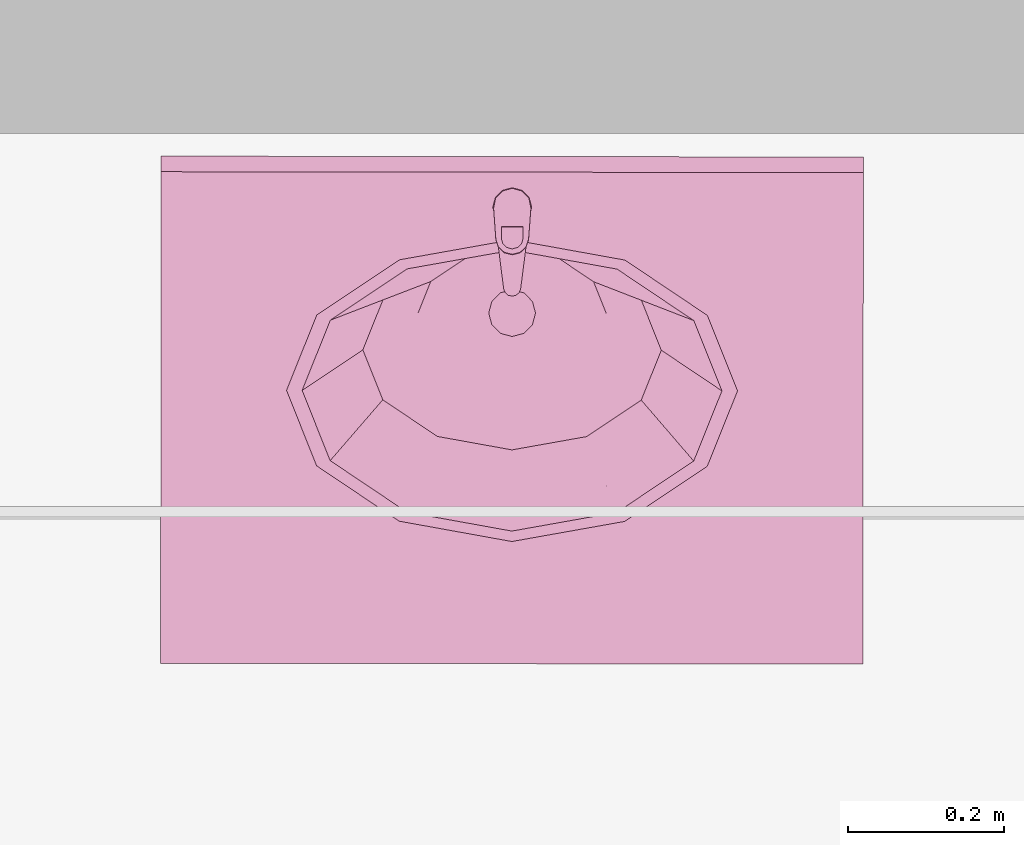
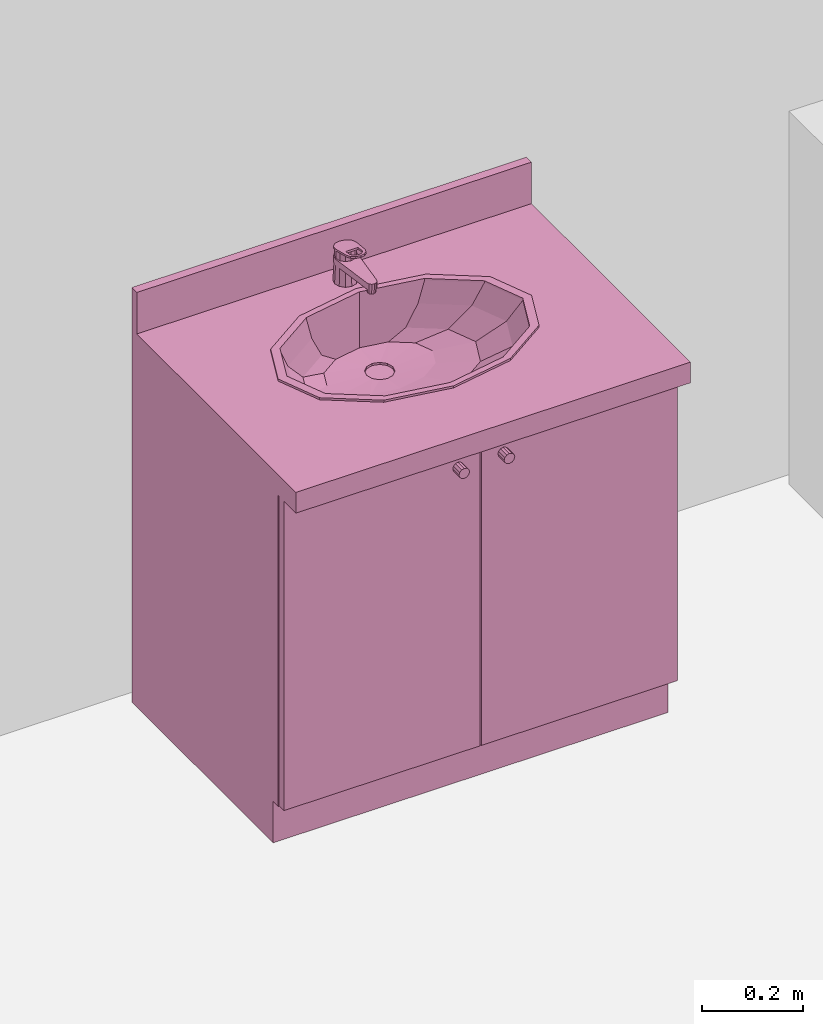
# One storey, part 95 of 127: 1 furnishing.
"""IFC2X3 building model written with IfcOpenShell, lengths in millimetres."""

from ifc_helpers import new_model, entity, si_unit, converted_unit, derived_unit, money_unit, direction, frame, origin_with_axes, place, context, subcontext, project, spatial, open_shell, faceted_brep, surface_model, source, transform, mapped, type_object, element, save


model = new_model("IFC2X3")

# Units and contexts
model_context = context("Model", 3, precision=1e-05, world=origin_with_axes(), true_north=direction((0.0, 1.0)))
body_context = subcontext(model_context, "Body", "Model", "MODEL_VIEW")
ifc_project = project(units=[si_unit("LENGTHUNIT", "METRE", prefix="MILLI"), si_unit("AREAUNIT", "SQUARE_METRE"), si_unit("VOLUMEUNIT", "CUBIC_METRE"), converted_unit("PLANEANGLEUNIT", "DEGREE", entity("IfcPlaneAngleMeasure", 0.0174532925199), si_unit("PLANEANGLEUNIT", "RADIAN"), dimensions=[0, 0, 0, 0, 0, 0, 0]), si_unit("SOLIDANGLEUNIT", "STERADIAN"), money_unit("EUR"), converted_unit("TIMEUNIT", "Year", entity("IfcTimeMeasure", 31556926.0), si_unit("TIMEUNIT", "SECOND"), dimensions=[0, 0, 1, 0, 0, 0, 0]), si_unit("MASSUNIT", "GRAM", prefix="KILO"), si_unit("THERMODYNAMICTEMPERATUREUNIT", "DEGREE_CELSIUS"), si_unit("LUMINOUSINTENSITYUNIT", "LUMEN"), si_unit("ENERGYUNIT", "JOULE", prefix="MEGA"), derived_unit("THERMALCONDUCTANCEUNIT", [(si_unit("POWERUNIT", "WATT"), 1), (si_unit("LENGTHUNIT", "METRE"), -1), (si_unit("THERMODYNAMICTEMPERATUREUNIT", "KELVIN"), -1)]), derived_unit("SPECIFICHEATCAPACITYUNIT", [(si_unit("ENERGYUNIT", "JOULE"), 1), (si_unit("MASSUNIT", "GRAM", prefix="KILO"), -1), (si_unit("THERMODYNAMICTEMPERATUREUNIT", "KELVIN"), -1)]), derived_unit("MASSDENSITYUNIT", [(si_unit("MASSUNIT", "GRAM", prefix="KILO"), 1), (si_unit("VOLUMEUNIT", "CUBIC_METRE"), -1)])], contexts=[model_context])

# Site, building, storey
site_placement = place(None, origin_with_axes())
site = spatial("IfcSite", under=ifc_project, at=site_placement, Name="Site", CompositionType="ELEMENT")
building_placement = place(site_placement, origin_with_axes())
building = spatial("IfcBuilding", under=site, at=building_placement, Name="Building", CompositionType="ELEMENT")
storey_placement = place(building_placement, origin_with_axes())
storey = spatial("IfcBuildingStorey", under=building, at=storey_placement, Name="1 KORRUS", CompositionType="ELEMENT", Elevation=0.0)

# Furnishing
furnishing_element_type = type_object("IfcFurnishingElementType", Name="Model Element 23")
shared_shape = source(origin_with_axes(), body_context, "Body", "SurfaceModel", [
    faceted_brep([(0.0, 90.0, 0.0), (900.0, 90.0, 0.0), (900.0, 90.0, 100.0), (0.0, 90.0, 100.0), (0.0, 650.0, 0.0), (900.0, 650.0, 0.0), (900.0, 650.0, 100.0), (0.0, 650.0, 100.0)], [[[0, 1, 2, 3]], [[0, 4, 5, 1]], [[1, 5, 6, 2]], [[3, 2, 6, 7]], [[4, 0, 3, 7]], [[5, 4, 7, 6]]]),
    faceted_brep([(0.0, 70.0, 100.0), (20.0, 70.0, 100.0), (20.0, 70.0, 120.0), (0.0, 70.0, 120.0), (0.0, 650.0, 100.0), (20.0, 650.0, 100.0), (880.0, 650.0, 100.0), (900.0, 650.0, 100.0), (900.0, 70.0, 100.0), (880.0, 70.0, 100.0), (880.0, 70.0, 120.0), (900.0, 70.0, 120.0), (900.0, 650.0, 120.0), (880.0, 650.0, 120.0), (20.0, 650.0, 120.0), (0.0, 650.0, 120.0)], [[[0, 1, 2, 3]], [[0, 4, 5, 6, 7, 8, 9, 1]], [[1, 9, 10, 2]], [[3, 2, 10, 11, 12, 13, 14, 15]], [[4, 0, 3, 15]], [[5, 4, 15, 14]], [[6, 5, 14, 13]], [[7, 6, 13, 12]], [[8, 7, 12, 11]], [[9, 8, 11, 10]]]),
    faceted_brep([(0.0, 70.0, 120.0), (20.0, 70.0, 120.0), (20.0, 70.0, 850.0), (0.0, 70.0, 850.0), (0.0, 650.0, 120.0), (900.0, 650.0, 120.0), (900.0, 70.0, 120.0), (880.0, 70.0, 120.0), (880.0, 630.0, 120.0), (20.0, 630.0, 120.0), (20.0, 630.0, 850.0), (880.0, 630.0, 850.0), (880.0, 70.0, 850.0), (900.0, 70.0, 850.0), (900.0, 650.0, 850.0), (0.0, 650.0, 850.0)], [[[0, 1, 2, 3]], [[0, 4, 5, 6, 7, 8, 9, 1]], [[1, 9, 10, 2]], [[3, 2, 10, 11, 12, 13, 14, 15]], [[4, 0, 3, 15]], [[5, 4, 15, 14]], [[6, 5, 14, 13]], [[7, 6, 13, 12]], [[8, 7, 12, 11]], [[9, 8, 11, 10]]]),
    faceted_brep([(880.0, 70.0, 323.333333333), (880.0, 630.0, 323.333333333), (880.0, 630.0, 343.333333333), (880.0, 70.0, 343.333333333), (20.0, 70.0, 323.333333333), (20.0, 630.0, 323.333333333), (20.0, 630.0, 343.333333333), (20.0, 70.0, 343.333333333)], [[[0, 1, 2, 3]], [[0, 4, 5, 1]], [[1, 5, 6, 2]], [[3, 2, 6, 7]], [[4, 0, 3, 7]], [[5, 4, 7, 6]]]),
    faceted_brep([(880.0, 70.0, 566.666666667), (880.0, 630.0, 566.666666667), (880.0, 630.0, 586.666666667), (880.0, 70.0, 586.666666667), (20.0, 70.0, 566.666666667), (20.0, 630.0, 566.666666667), (20.0, 630.0, 586.666666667), (20.0, 70.0, 586.666666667)], [[[0, 1, 2, 3]], [[0, 4, 5, 1]], [[1, 5, 6, 2]], [[3, 2, 6, 7]], [[4, 0, 3, 7]], [[5, 4, 7, 6]]]),
    faceted_brep([(0.0, 650.0, 850.0), (900.0, 650.0, 850.0), (900.0, 0.0, 850.0), (0.0, 0.0, 850.0), (585.0, 194.115427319, 850.0), (683.826859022, 260.0, 850.0), (720.0, 350.0, 850.0), (683.826859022, 440.0, 850.0), (585.0, 505.884572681, 850.0), (450.0, 530.0, 850.0), (315.0, 505.884572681, 850.0), (216.173140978, 440.0, 850.0), (180.0, 350.0, 850.0), (216.173140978, 260.0, 850.0), (315.0, 194.115427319, 850.0), (450.0, 170.0, 850.0), (0.0, 650.0, 900.0), (900.0, 650.0, 900.0), (900.0, 0.0, 900.0), (0.0, 0.0, 900.0), (585.0, 194.115427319, 900.0), (683.826859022, 260.0, 900.0), (720.0, 350.0, 900.0), (683.826859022, 440.0, 900.0), (585.0, 505.884572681, 900.0), (450.0, 530.0, 900.0), (315.0, 505.884572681, 900.0), (216.173140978, 440.0, 900.0), (180.0, 350.0, 900.0), (216.173140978, 260.0, 900.0), (315.0, 194.115427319, 900.0), (450.0, 170.0, 900.0)], [[[0, 1, 2, 3], [4, 5, 6, 7, 8, 9, 10, 11, 12, 13, 14, 15]], [[0, 16, 17, 1]], [[1, 17, 18, 2]], [[2, 18, 19, 3]], [[3, 19, 16, 0]], [[20, 21, 5, 4]], [[21, 22, 6, 5]], [[22, 23, 7, 6]], [[23, 24, 8, 7]], [[24, 25, 9, 8]], [[25, 26, 10, 9]], [[26, 27, 11, 10]], [[27, 28, 12, 11]], [[28, 29, 13, 12]], [[29, 30, 14, 13]], [[30, 31, 15, 14]], [[31, 20, 4, 15]], [[18, 17, 16, 19], [24, 23, 22, 21, 20, 31, 30, 29, 28, 27, 26, 25]]]),
    faceted_brep([(0.0, 630.0, 900.0), (900.0, 630.0, 900.0), (900.0, 630.0, 1000.0), (0.0, 630.0, 1000.0), (0.0, 650.0, 900.0), (900.0, 650.0, 900.0), (900.0, 650.0, 1000.0), (0.0, 650.0, 1000.0)], [[[0, 1, 2, 3]], [[0, 4, 5, 1]], [[1, 5, 6, 2]], [[3, 2, 6, 7]], [[4, 0, 3, 7]], [[5, 4, 7, 6]]]),
    faceted_brep([(739.0, 350.0, 905.0), (739.0, 350.0, 900.0), (700.281341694, 446.691449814, 900.0), (700.281341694, 446.691449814, 905.0), (700.281341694, 253.308550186, 905.0), (700.281341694, 253.308550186, 900.0), (594.5, 182.525496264, 900.0), (450.0, 156.617100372, 900.0), (305.5, 182.525496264, 900.0), (199.718658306, 253.308550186, 900.0), (161.0, 350.0, 900.0), (199.718658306, 446.691449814, 900.0), (305.5, 517.474503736, 900.0), (450.0, 543.382899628, 900.0), (594.5, 517.474503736, 900.0), (719.0, 350.0, 900.0), (682.960833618, 440.0, 900.0), (584.5, 505.884572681, 900.0), (450.0, 530.0, 900.0), (315.5, 505.884572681, 900.0), (217.039166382, 440.0, 900.0), (181.0, 350.0, 900.0), (217.039166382, 260.0, 900.0), (315.5, 194.115427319, 900.0), (450.0, 170.0, 900.0), (584.5, 194.115427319, 900.0), (682.960833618, 260.0, 900.0), (594.5, 517.474503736, 905.0), (450.0, 543.382899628, 905.0), (305.5, 517.474503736, 905.0), (199.718658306, 446.691449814, 905.0), (161.0, 350.0, 905.0), (199.718658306, 253.308550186, 905.0), (305.5, 182.525496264, 905.0), (450.0, 156.617100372, 905.0), (594.5, 182.525496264, 905.0), (719.0, 350.0, 905.0), (682.960833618, 260.0, 905.0), (584.5, 194.115427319, 905.0), (450.0, 170.0, 905.0), (315.5, 194.115427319, 905.0), (217.039166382, 260.0, 905.0), (181.0, 350.0, 905.0), (217.039166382, 440.0, 905.0), (315.5, 505.884572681, 905.0), (450.0, 530.0, 905.0), (584.5, 505.884572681, 905.0), (682.960833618, 440.0, 905.0)], [[[0, 1, 2, 3]], [[4, 5, 1, 0]], [[1, 5, 6, 7, 8, 9, 10, 11, 12, 13, 14, 2], [15, 16, 17, 18, 19, 20, 21, 22, 23, 24, 25, 26]], [[3, 2, 14, 27]], [[0, 3, 27, 28, 29, 30, 31, 32, 33, 34, 35, 4], [36, 37, 38, 39, 40, 41, 42, 43, 44, 45, 46, 47]], [[35, 6, 5, 4]], [[34, 7, 6, 35]], [[33, 8, 7, 34]], [[32, 9, 8, 33]], [[31, 10, 9, 32]], [[30, 11, 10, 31]], [[29, 12, 11, 30]], [[28, 13, 12, 29]], [[27, 14, 13, 28]], [[47, 16, 15, 36]], [[46, 17, 16, 47]], [[45, 18, 17, 46]], [[44, 19, 18, 45]], [[43, 20, 19, 44]], [[42, 21, 20, 43]], [[41, 22, 21, 42]], [[40, 23, 22, 41]], [[39, 24, 23, 40]], [[38, 25, 24, 39]], [[37, 26, 25, 38]], [[36, 15, 26, 37]]]),
    surface_model("IfcShellBasedSurfaceModel", [(450.0, 530.0, 900.0), (450.0, 530.0, 848.0), (571.05, 508.296115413, 848.0), (584.5, 505.884572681, 900.0), (315.5, 505.884572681, 900.0), (328.95, 508.296115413, 848.0), (659.664750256, 449.0, 848.0), (682.960833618, 440.0, 900.0), (217.039166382, 440.0, 900.0), (240.335249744, 449.0, 848.0), (692.1, 368.0, 848.0), (719.0, 350.0, 900.0), (181.0, 350.0, 900.0), (207.9, 368.0, 848.0), (659.664750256, 287.0, 848.0), (682.960833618, 260.0, 900.0), (217.039166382, 260.0, 900.0), (240.335249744, 287.0, 848.0), (571.05, 227.703884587, 848.0), (584.5, 194.115427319, 900.0), (315.5, 194.115427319, 900.0), (328.95, 227.703884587, 848.0), (450.0, 206.0, 848.0), (450.0, 170.0, 900.0)], [open_shell([[[0, 1, 2, 3]], [[4, 5, 1, 0]], [[3, 2, 6, 7]], [[8, 9, 5, 4]], [[7, 6, 10, 11]], [[12, 13, 9, 8]], [[11, 10, 14, 15]], [[16, 17, 13, 12]], [[15, 14, 18, 19]], [[20, 21, 17, 16]], [[19, 18, 22, 23]], [[23, 22, 21, 20]]])]),
    surface_model("IfcShellBasedSurfaceModel", [(450.0, 530.0, 848.0), (450.0, 530.0, 796.0), (545.6295, 512.853931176, 796.0), (571.05, 508.296115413, 848.0), (328.95, 508.296115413, 848.0), (354.3705, 512.853931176, 796.0), (615.635152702, 466.01, 796.0), (659.664750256, 449.0, 848.0), (240.335249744, 449.0, 848.0), (284.364847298, 466.01, 796.0), (641.259, 402.02, 796.0), (692.1, 368.0, 848.0), (207.9, 368.0, 848.0), (258.741, 402.02, 796.0), (615.635152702, 338.03, 796.0), (659.664750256, 287.0, 848.0), (240.335249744, 287.0, 848.0), (284.364847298, 338.03, 796.0), (545.6295, 291.186068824, 796.0), (571.05, 227.703884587, 848.0), (328.95, 227.703884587, 848.0), (354.3705, 291.186068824, 796.0), (450.0, 274.04, 796.0), (450.0, 206.0, 848.0)], [open_shell([[[0, 1, 2, 3]], [[4, 5, 1, 0]], [[3, 2, 6, 7]], [[8, 9, 5, 4]], [[7, 6, 10, 11]], [[12, 13, 9, 8]], [[11, 10, 14, 15]], [[16, 17, 13, 12]], [[15, 14, 18, 19]], [[20, 21, 17, 16]], [[19, 18, 22, 23]], [[23, 22, 21, 20]]])]),
    surface_model("IfcShellBasedSurfaceModel", [(450.0, 530.0, 796.0), (450.0, 530.0, 770.0), (510.246585, 519.197976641, 770.0), (545.6295, 512.853931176, 796.0), (354.3705, 512.853931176, 796.0), (389.753415, 519.197976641, 770.0), (554.350146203, 489.6863, 770.0), (615.635152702, 466.01, 796.0), (284.364847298, 466.01, 796.0), (345.649853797, 489.6863, 770.0), (570.49317, 449.3726, 770.0), (641.259, 402.02, 796.0), (258.741, 402.02, 796.0), (329.50683, 449.3726, 770.0), (554.350146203, 409.0589, 770.0), (615.635152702, 338.03, 796.0), (284.364847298, 338.03, 796.0), (345.649853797, 409.0589, 770.0), (510.246585, 379.547223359, 770.0), (545.6295, 291.186068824, 796.0), (354.3705, 291.186068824, 796.0), (389.753415, 379.547223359, 770.0), (450.0, 368.7452, 770.0), (450.0, 274.04, 796.0)], [open_shell([[[0, 1, 2, 3]], [[4, 5, 1, 0]], [[3, 2, 6, 7]], [[8, 9, 5, 4]], [[7, 6, 10, 11]], [[12, 13, 9, 8]], [[11, 10, 14, 15]], [[16, 17, 13, 12]], [[15, 14, 18, 19]], [[20, 21, 17, 16]], [[19, 18, 22, 23]], [[23, 22, 21, 20]]])]),
    surface_model("IfcShellBasedSurfaceModel", [(450.0, 530.0, 770.0), (465.0, 475.353362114, 763.0), (510.246585, 519.197976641, 770.0), (450.0, 479.3726, 763.0), (475.980762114, 464.3726, 763.0), (389.753415, 519.197976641, 770.0), (554.350146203, 489.6863, 770.0), (435.0, 475.353362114, 763.0), (480.0, 449.3726, 763.0), (345.649853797, 489.6863, 770.0), (570.49317, 449.3726, 770.0), (424.019237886, 464.3726, 763.0), (475.980762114, 434.3726, 763.0), (329.50683, 449.3726, 770.0), (554.350146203, 409.0589, 770.0), (420.0, 449.3726, 763.0), (465.0, 423.391837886, 763.0), (345.649853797, 409.0589, 770.0), (510.246585, 379.547223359, 770.0), (424.019237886, 434.3726, 763.0), (450.0, 419.3726, 763.0), (389.753415, 379.547223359, 770.0), (450.0, 368.7452, 770.0), (435.0, 423.391837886, 763.0)], [open_shell([[[0, 1, 2]], [[0, 3, 1]], [[2, 1, 4]], [[5, 3, 0]], [[2, 4, 6]], [[5, 7, 3]], [[6, 4, 8]], [[9, 7, 5]], [[6, 8, 10]], [[9, 11, 7]], [[10, 8, 12]], [[13, 11, 9]], [[10, 12, 14]], [[13, 15, 11]], [[14, 12, 16]], [[17, 15, 13]], [[14, 16, 18]], [[17, 19, 15]], [[18, 16, 20]], [[21, 19, 17]], [[18, 20, 22]], [[21, 23, 19]], [[22, 20, 23]], [[22, 23, 21]]])]),
    surface_model("IfcShellBasedSurfaceModel", [(480.0, 449.3726, 763.0), (480.0, 449.3726, 758.0), (475.980762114, 464.3726, 758.0), (475.980762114, 464.3726, 763.0), (475.980762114, 434.3726, 763.0), (475.980762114, 434.3726, 758.0), (465.0, 423.391837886, 758.0), (450.0, 419.3726, 758.0), (435.0, 423.391837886, 758.0), (424.019237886, 434.3726, 758.0), (420.0, 449.3726, 758.0), (424.019237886, 464.3726, 758.0), (435.0, 475.353362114, 758.0), (450.0, 479.3726, 758.0), (465.0, 475.353362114, 758.0), (465.0, 475.353362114, 763.0), (465.0, 423.391837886, 763.0), (450.0, 419.3726, 763.0), (435.0, 423.391837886, 763.0), (424.019237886, 434.3726, 763.0), (420.0, 449.3726, 763.0), (424.019237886, 464.3726, 763.0), (435.0, 475.353362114, 763.0), (450.0, 479.3726, 763.0)], [open_shell([[[0, 1, 2, 3]], [[4, 5, 1, 0]], [[1, 5, 6, 7, 8, 9, 10, 11, 12, 13, 14, 2]], [[3, 2, 14, 15]], [[16, 6, 5, 4]], [[17, 7, 6, 16]], [[18, 8, 7, 17]], [[19, 9, 8, 18]], [[20, 10, 9, 19]], [[21, 11, 10, 20]], [[22, 12, 11, 21]], [[23, 13, 12, 22]], [[15, 14, 13, 23]]])]),
    faceted_brep([(462.5, 606.650635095, 900.0), (450.0, 610.0, 900.0), (450.0, 606.201923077, 975.961538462), (460.587322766, 603.337780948, 976.507089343), (471.650635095, 597.5, 900.0), (475.0, 585.0, 900.0), (471.650635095, 572.5, 900.0), (462.5, 563.349364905, 900.0), (450.0, 560.0, 900.0), (437.5, 563.349364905, 900.0), (428.349364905, 572.5, 900.0), (425.0, 585.0, 900.0), (428.349364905, 597.5, 900.0), (437.5, 606.650635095, 900.0), (439.412677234, 603.337780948, 976.507089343), (431.726449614, 595.550239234, 977.990430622), (429.0, 585.0, 980.0), (431.899658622, 574.549763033, 981.990521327), (439.585894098, 566.962239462, 983.435763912), (450.0, 564.198113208, 983.962264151), (460.414105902, 566.962239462, 983.435763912), (468.100341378, 574.549763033, 981.990521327), (471.0, 585.0, 980.0), (468.273550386, 595.550239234, 977.990430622)], [[[0, 1, 2, 3]], [[0, 4, 5, 6, 7, 8, 9, 10, 11, 12, 13, 1]], [[1, 13, 14, 2]], [[3, 2, 14, 15, 16, 17, 18, 19, 20, 21, 22, 23]], [[4, 0, 3, 23]], [[5, 4, 23, 22]], [[6, 5, 22, 21]], [[7, 6, 21, 20]], [[8, 7, 20, 19]], [[9, 8, 19, 18]], [[10, 9, 18, 17]], [[11, 10, 17, 16]], [[12, 11, 16, 15]], [[13, 12, 15, 14]]]),
    faceted_brep([(459.0, 482.0, 935.0), (457.794228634, 486.5, 935.0), (457.794228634, 486.5, 945.0), (459.0, 482.0, 945.0), (457.794228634, 477.5, 935.0), (454.5, 474.205771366, 935.0), (450.0, 473.0, 935.0), (445.5, 474.205771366, 935.0), (442.205771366, 477.5, 935.0), (441.0, 482.0, 935.0), (442.205771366, 486.5, 935.0), (445.5, 489.794228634, 935.0), (450.0, 491.0, 935.0), (454.5, 489.794228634, 935.0), (454.5, 489.794228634, 945.0), (450.0, 491.0, 945.0), (445.5, 489.794228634, 945.0), (442.205771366, 486.5, 945.0), (441.0, 482.0, 945.0), (442.205771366, 477.5, 945.0), (445.5, 474.205771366, 945.0), (450.0, 473.0, 945.0), (454.5, 474.205771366, 945.0), (457.794228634, 477.5, 945.0)], [[[0, 1, 2, 3]], [[0, 4, 5, 6, 7, 8, 9, 10, 11, 12, 13, 1]], [[1, 13, 14, 2]], [[3, 2, 14, 15, 16, 17, 18, 19, 20, 21, 22, 23]], [[4, 0, 3, 23]], [[5, 4, 23, 22]], [[6, 5, 22, 21]], [[7, 6, 21, 20]], [[8, 7, 20, 19]], [[9, 8, 19, 18]], [[10, 9, 18, 17]], [[11, 10, 17, 16]], [[12, 11, 16, 15]], [[13, 12, 15, 14]]]),
    faceted_brep([(437.128282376, 605.256303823, 960.0), (428.272194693, 595.19320537, 960.0), (426.1946, 581.9501, 960.0), (439.088009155, 480.611628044, 960.0), (440.971124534, 475.716805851, 960.0), (444.906675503, 472.250273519, 960.0), (450.000036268, 471.00003996, 960.0), (455.093388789, 472.250307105, 960.0), (459.028916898, 475.716865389, 960.0), (460.912, 480.6117, 960.0), (473.805399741, 581.950097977, 960.0), (471.727806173, 595.193203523, 960.0), (462.871719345, 605.256302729, 960.0), (450.00000102, 608.999978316, 960.0), (461.0, 604.052558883, 960.0), (469.052558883, 596.0, 960.0), (472.0, 585.0, 960.0), (469.052558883, 574.0, 960.0), (461.0, 565.947441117, 960.0), (450.0, 563.0, 960.0), (439.0, 565.947441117, 960.0), (430.947441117, 574.0, 960.0), (428.0, 585.0, 960.0), (430.947441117, 596.0, 960.0), (439.0, 604.052558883, 960.0), (450.0, 607.0, 960.0), (428.272194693, 595.19320537, 945.0), (437.128282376, 605.256303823, 945.0), (426.1946, 581.9501, 945.0), (439.088009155, 480.611628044, 945.0), (440.971124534, 475.716805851, 945.0), (444.906675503, 472.250273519, 945.0), (450.000036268, 471.00003996, 945.0), (455.093388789, 472.250307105, 945.0), (459.028916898, 475.716865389, 945.0), (460.912, 480.6117, 945.0), (473.805399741, 581.950097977, 945.0), (471.727806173, 595.193203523, 945.0), (462.871719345, 605.256302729, 945.0), (450.00000102, 608.999978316, 945.0), (461.375, 604.702077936, 945.0), (469.702077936, 596.375, 945.0), (472.75, 585.0, 945.0), (469.702077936, 573.625, 945.0), (461.375, 565.297922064, 945.0), (450.0, 562.25, 945.0), (438.625, 565.297922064, 945.0), (430.297922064, 573.625, 945.0), (427.25, 585.0, 945.0), (430.297922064, 596.375, 945.0), (438.625, 604.702077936, 945.0), (450.0, 607.75, 945.0)], [[[0, 1, 2, 3, 4, 5, 6, 7, 8, 9, 10, 11, 12, 13], [14, 15, 16, 17, 18, 19, 20, 21, 22, 23, 24, 25]], [[26, 1, 0, 27]], [[28, 2, 1, 26]], [[29, 3, 2, 28]], [[30, 4, 3, 29]], [[31, 5, 4, 30]], [[32, 6, 5, 31]], [[33, 7, 6, 32]], [[34, 8, 7, 33]], [[35, 9, 8, 34]], [[36, 10, 9, 35]], [[37, 11, 10, 36]], [[38, 12, 11, 37]], [[39, 13, 12, 38]], [[27, 0, 13, 39]], [[40, 41, 15, 14]], [[41, 42, 16, 15]], [[42, 43, 17, 16]], [[43, 44, 18, 17]], [[44, 45, 19, 18]], [[20, 19, 45, 46]], [[21, 20, 46, 47]], [[22, 21, 47, 48]], [[23, 22, 48, 49]], [[24, 23, 49, 50]], [[50, 51, 25, 24]], [[51, 40, 14, 25]], [[32, 31, 30, 29, 28, 26, 27, 39, 38, 37, 36, 35, 34, 33], [44, 43, 42, 41, 40, 51, 50, 49, 48, 47, 46, 45]]]),
    faceted_brep([(473.893, 583.30743065, 980.322394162), (471.296421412, 595.774718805, 977.947672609), (471.296421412, 596.523167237, 981.877026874), (473.893, 584.055879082, 984.251748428), (470.945936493, 543.163297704, 987.968895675), (467.663139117, 533.485633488, 989.812260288), (460.061435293, 526.536253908, 991.135951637), (449.999557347, 524.01438808, 991.616307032), (439.937787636, 526.536670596, 991.135872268), (432.336382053, 533.486364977, 989.812120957), (429.054, 543.164165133, 987.968730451), (426.106979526, 583.307709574, 980.322341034), (428.703708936, 595.774967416, 977.947625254), (437.52831848, 605.091197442, 976.173105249), (450.000142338, 608.531964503, 975.517721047), (462.47192457, 605.091051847, 976.173132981), (464.0, 559.459197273, 984.864914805), (436.0, 559.459197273, 984.864914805), (436.0, 544.643567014, 987.686939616), (437.875644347, 537.767197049, 988.996724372), (443.0, 532.733344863, 989.955553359), (450.0, 530.890827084, 990.306509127), (457.0, 532.733344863, 989.955553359), (462.124355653, 537.767197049, 988.996724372), (464.0, 544.643567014, 987.686939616), (462.47192457, 605.839500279, 980.102487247), (450.000142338, 609.280412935, 979.447075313), (437.52831848, 605.839645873, 980.102459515), (428.703708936, 596.523415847, 981.87697952), (426.106979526, 584.056158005, 984.251695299), (429.054, 543.912613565, 991.898084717), (432.336382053, 534.234813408, 993.741475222), (439.937787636, 527.285119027, 995.065226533), (449.999557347, 524.762836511, 995.545661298), (460.061435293, 527.28470234, 995.065305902), (467.663139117, 534.23408192, 993.741614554), (470.945936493, 543.911746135, 991.898249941), (464.0, 560.207645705, 988.794269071), (464.0, 545.392015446, 991.616293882), (462.124355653, 538.515645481, 992.926078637), (457.0, 533.481793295, 993.884907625), (450.0, 531.639275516, 994.235863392), (443.0, 533.481793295, 993.884907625), (437.875644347, 538.515645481, 992.926078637), (436.0, 545.392015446, 991.616293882), (436.0, 560.207645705, 988.794269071)], [[[0, 1, 2, 3]], [[0, 4, 5, 6, 7, 8, 9, 10, 11, 12, 13, 14, 15, 1], [16, 17, 18, 19, 20, 21, 22, 23, 24]], [[1, 15, 25, 2]], [[3, 2, 25, 26, 27, 28, 29, 30, 31, 32, 33, 34, 35, 36], [37, 38, 39, 40, 41, 42, 43, 44, 45]], [[4, 0, 3, 36]], [[5, 4, 36, 35]], [[6, 5, 35, 34]], [[7, 6, 34, 33]], [[8, 7, 33, 32]], [[9, 8, 32, 31]], [[10, 9, 31, 30]], [[11, 10, 30, 29]], [[12, 11, 29, 28]], [[13, 12, 28, 27]], [[14, 13, 27, 26]], [[15, 14, 26, 25]], [[17, 16, 37, 45]], [[18, 17, 45, 44]], [[19, 18, 44, 43]], [[20, 19, 43, 42]], [[21, 20, 42, 41]], [[22, 21, 41, 40]], [[23, 22, 40, 39]], [[24, 23, 39, 38]], [[16, 24, 38, 37]]]),
    faceted_brep([(1.5, 70.0, 101.5), (448.5, 70.0, 101.5), (448.5, 50.0, 101.5), (1.5, 50.0, 101.5), (1.5, 70.0, 848.5), (448.5, 70.0, 848.5), (448.5, 50.0, 848.5), (1.5, 50.0, 848.5)], [[[0, 1, 2, 3]], [[0, 4, 5, 1]], [[1, 5, 6, 2]], [[3, 2, 6, 7]], [[4, 0, 3, 7]], [[5, 4, 7, 6]]]),
    faceted_brep([(408.892304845, 50.0, 785.5), (404.5, 50.0, 781.107695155), (398.5, 50.0, 779.5), (392.5, 50.0, 781.107695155), (388.107695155, 50.0, 785.5), (386.5, 50.0, 791.5), (388.107695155, 50.0, 797.5), (392.5, 50.0, 801.892304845), (398.5, 50.0, 803.5), (404.5, 50.0, 801.892304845), (408.892304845, 50.0, 797.5), (410.5, 50.0, 791.5), (408.892304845, 25.0, 785.5), (404.5, 25.0, 781.107695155), (398.5, 25.0, 779.5), (392.5, 25.0, 781.107695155), (388.107695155, 25.0, 785.5), (386.5, 25.0, 791.5), (388.107695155, 25.0, 797.5), (392.5, 25.0, 801.892304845), (398.5, 25.0, 803.5), (404.5, 25.0, 801.892304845), (408.892304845, 25.0, 797.5), (410.5, 25.0, 791.5)], [[[0, 1, 2, 3, 4, 5, 6, 7, 8, 9, 10, 11]], [[1, 0, 12, 13]], [[2, 1, 13, 14]], [[3, 2, 14, 15]], [[4, 3, 15, 16]], [[5, 4, 16, 17]], [[6, 5, 17, 18]], [[7, 6, 18, 19]], [[8, 7, 19, 20]], [[9, 8, 20, 21]], [[10, 9, 21, 22]], [[11, 10, 22, 23]], [[0, 11, 23, 12]], [[12, 23, 22, 21, 20, 19, 18, 17, 16, 15, 14, 13]]]),
    faceted_brep([(898.5, 70.0, 101.5), (898.5, 50.0, 101.5), (451.5, 50.0, 101.5), (451.5, 70.0, 101.5), (898.5, 70.0, 848.5), (898.5, 50.0, 848.5), (451.5, 50.0, 848.5), (451.5, 70.0, 848.5)], [[[0, 1, 2, 3]], [[4, 5, 1, 0]], [[1, 5, 6, 2]], [[3, 2, 6, 7]], [[0, 3, 7, 4]], [[7, 6, 5, 4]]]),
    faceted_brep([(491.107695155, 50.0, 785.5), (489.5, 50.0, 791.5), (491.107695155, 50.0, 797.5), (495.5, 50.0, 801.892304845), (501.5, 50.0, 803.5), (507.5, 50.0, 801.892304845), (511.892304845, 50.0, 797.5), (513.5, 50.0, 791.5), (511.892304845, 50.0, 785.5), (507.5, 50.0, 781.107695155), (501.5, 50.0, 779.5), (495.5, 50.0, 781.107695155), (491.107695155, 25.0, 785.5), (489.5, 25.0, 791.5), (491.107695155, 25.0, 797.5), (495.5, 25.0, 801.892304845), (501.5, 25.0, 803.5), (507.5, 25.0, 801.892304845), (511.892304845, 25.0, 797.5), (513.5, 25.0, 791.5), (511.892304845, 25.0, 785.5), (507.5, 25.0, 781.107695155), (501.5, 25.0, 779.5), (495.5, 25.0, 781.107695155)], [[[0, 1, 2, 3, 4, 5, 6, 7, 8, 9, 10, 11]], [[0, 12, 13, 1]], [[1, 13, 14, 2]], [[2, 14, 15, 3]], [[3, 15, 16, 4]], [[4, 16, 17, 5]], [[5, 17, 18, 6]], [[6, 18, 19, 7]], [[7, 19, 20, 8]], [[8, 20, 21, 9]], [[9, 21, 22, 10]], [[10, 22, 23, 11]], [[11, 23, 12, 0]], [[12, 23, 22, 21, 20, 19, 18, 17, 16, 15, 14, 13]]]),
])
furnishing_placement = place(storey_placement, frame((19540.6755005, 64537.3397859, 0.0), z_axis=(0.0, 0.0, 1.0), x_axis=(0.99999925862, -0.00121768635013, 0.0)))
element("IfcFurnishingElement", 1, at=furnishing_placement, inside=storey, type_object=furnishing_element_type, Name="FU - 005", context=body_context, shape_type="MappedRepresentation", body=[
    mapped(shared_shape, transform((0.0, 0.0, 0.0))),
])

save(model, "model.ifc")
